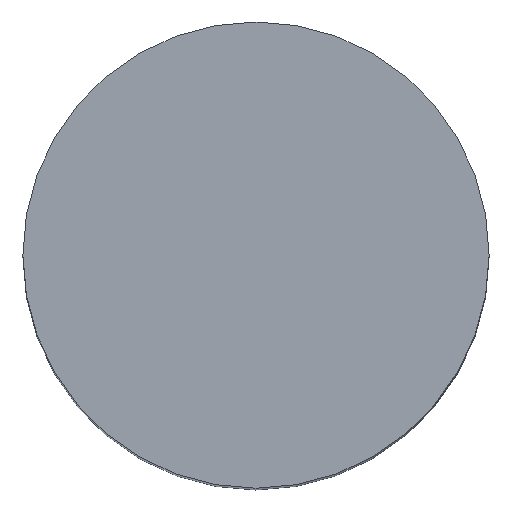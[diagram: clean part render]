
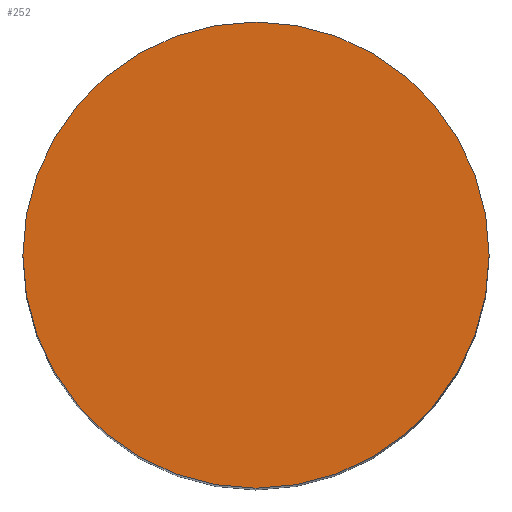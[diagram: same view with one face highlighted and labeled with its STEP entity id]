
A CAD part, top view. The second image highlights one B-rep face of the part: STEP entity #252.
In plain terms, the highlighted planar face has unit normal (0, 0, 1).
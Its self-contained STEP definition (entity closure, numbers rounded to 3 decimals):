
#11 = EDGE_CURVE ( 'NONE', #239, #150, #22, .T. ) ;
#14 = DIRECTION ( 'NONE',  ( -1., 0., 0. ) ) ;
#15 = DIRECTION ( 'NONE',  ( 0., 0., -1. ) ) ;
#20 = ORIENTED_EDGE ( 'NONE', *, *, #218, .F. ) ;
#22 = CIRCLE ( 'NONE', #43, 2.15 ) ;
#33 = CARTESIAN_POINT ( 'NONE',  ( 0., 0., 6.5 ) ) ;
#40 = ORIENTED_EDGE ( 'NONE', *, *, #11, .F. ) ;
#41 = CARTESIAN_POINT ( 'NONE',  ( -2.15, 0., 6.5 ) ) ;
#43 = AXIS2_PLACEMENT_3D ( 'NONE', #95, #15, #183 ) ;
#64 = DIRECTION ( 'NONE',  ( 0., 0., -1. ) ) ;
#81 = EDGE_LOOP ( 'NONE', ( #40, #20 ) ) ;
#83 = DIRECTION ( 'NONE',  ( -1., 0., 0. ) ) ;
#95 = CARTESIAN_POINT ( 'NONE',  ( 0., 0., 6.5 ) ) ;
#110 = AXIS2_PLACEMENT_3D ( 'NONE', #33, #227, #14 ) ;
#115 = CARTESIAN_POINT ( 'NONE',  ( 0., 0., 6.5 ) ) ;
#127 = AXIS2_PLACEMENT_3D ( 'NONE', #115, #64, #83 ) ;
#150 = VERTEX_POINT ( 'NONE', #173 ) ;
#155 = FACE_OUTER_BOUND ( 'NONE', #81, .T. ) ;
#162 = CIRCLE ( 'NONE', #110, 2.15 ) ;
#173 = CARTESIAN_POINT ( 'NONE',  ( 2.15, 0., 6.5 ) ) ;
#183 = DIRECTION ( 'NONE',  ( -1., 0., 0. ) ) ;
#191 = PLANE ( 'NONE',  #127 ) ;
#218 = EDGE_CURVE ( 'NONE', #150, #239, #162, .T. ) ;
#227 = DIRECTION ( 'NONE',  ( 0., 0., -1. ) ) ;
#239 = VERTEX_POINT ( 'NONE', #41 ) ;
#252 = ADVANCED_FACE ( 'NONE', ( #155 ), #191, .F. ) ;
